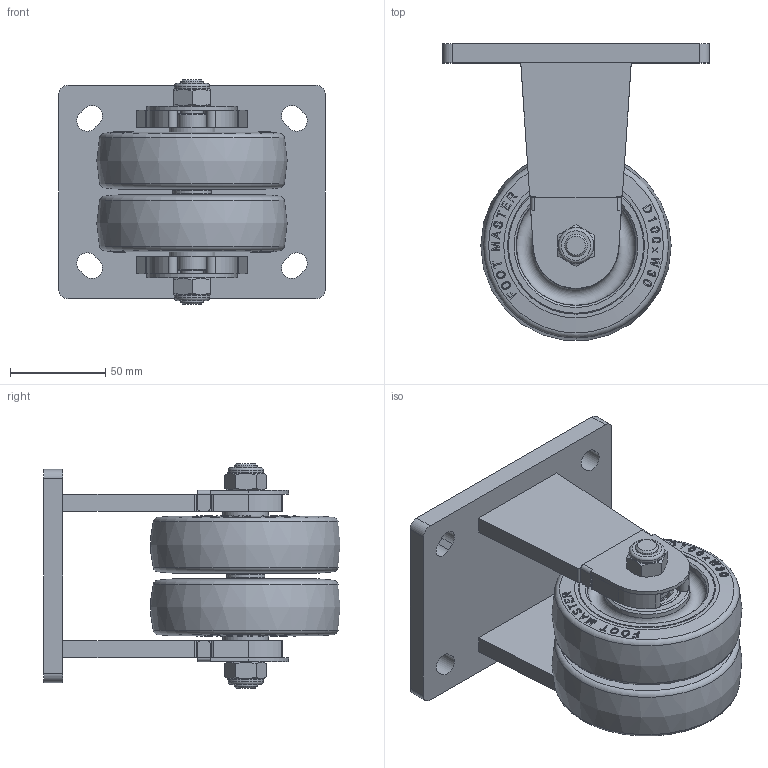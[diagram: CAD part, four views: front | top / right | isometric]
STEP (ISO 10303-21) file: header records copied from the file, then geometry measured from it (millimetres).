
FILE_DESCRIPTION(/* description */ (''),/* implementation_level */ '2;1');
FILE_NAME(/* name */ '\\192.168.10.38\지덕공유\1.기술연구소\1.도면\제품도면\1.양산품\9.1.GXTD-100_110_GXTA-100_GXTS-100\GXTD-100-ARF-HUD_홈페이지용.stp',/* time_stamp */ '2022-07-14T15:43:59+09:00',/* author */ ('admin'),/* organization */ (''),/* preprocessor_version */ 'ST-DEVELOPER v18.1',/* originating_system */ 'Autodesk Inventor 2021',/* authorisation */ '');
FILE_SCHEMA (('AUTOMOTIVE_DESIGN { 1 0 10303 214 3 1 1 }'));
Length unit declared in the file: millimetre
Products named in the file (1): GXTD-100-ARF-HUD_홈페이지용
Bounding box: 140 x 155.64 x 118 mm (x, y, z)
Volume: 646300.3 mm3; surface area: 176248.3 mm2
Topology: 18 solids, 18 shells, 905 faces, 2395 edges, 1594 vertices
Faces by surface type: plane 392, bspline 298, cone 108, cylinder 81, torus 24, sphere 2
Full cylindrical faces by diameter (mm): 10.376 x2, 12 x2, 12.2 x2, 15 x4, 15.1 x2, 18.5 x2, 20 x1, 21.667 x4, 24 x2, 28.333 x4, 30 x2, 35 x6, 72 x4
Entity records: 33910 total; most frequent: CARTESIAN_POINT 13789, ORIENTED_EDGE 4790, DIRECTION 2803, EDGE_CURVE 2395, VERTEX_POINT 1594, EDGE_LOOP 1009, AXIS2_PLACEMENT_3D 960, STYLED_ITEM 923
